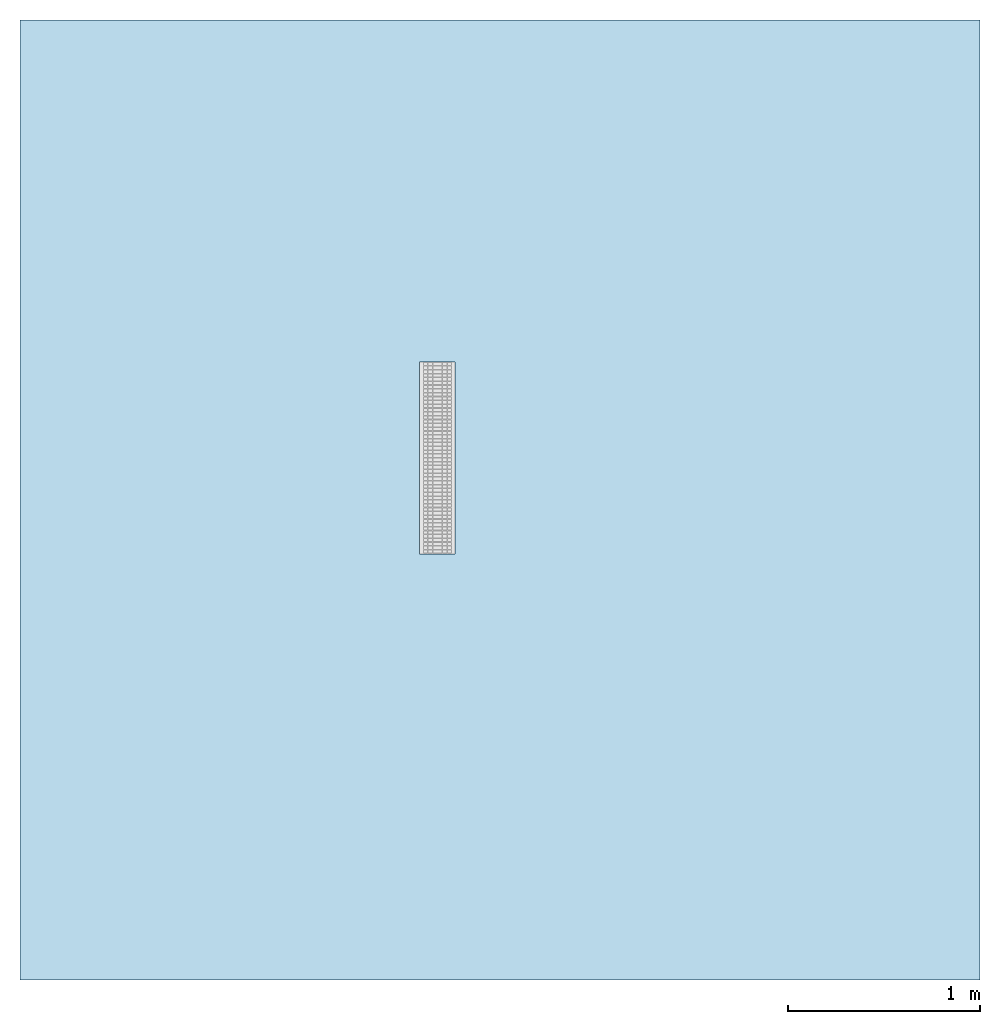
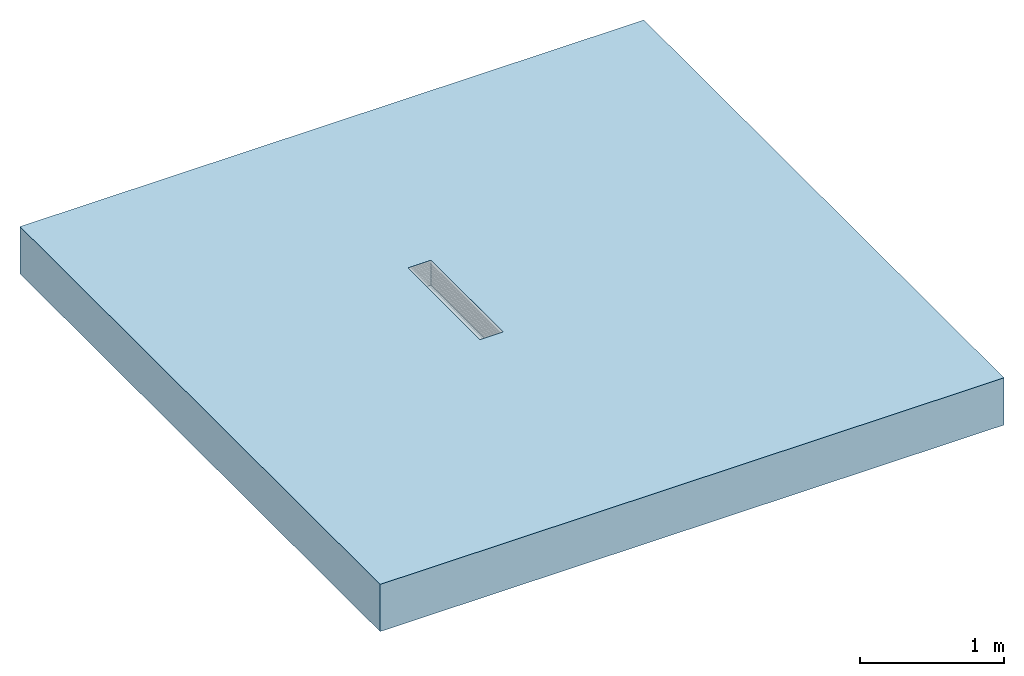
# One storey, incomplete: 1 slab, 1 opening.
"""IFC2X3 building model written with IfcOpenShell, lengths in millimetres."""

from ifc_helpers import new_model, entity, si_unit, converted_unit, direction, frame, frame_2d, origin, origin_2d_with_axis, place, context, subcontext, project, spatial, rectangle, extrude, material, layer, layer_set, layer_usage, element, save


model = new_model("IFC2X3")

# Units and contexts
model_context = context("Model", 3, precision=1e-06, world=origin(), true_north=direction((2.0, 6.12303176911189e-17, 1.0)))
context_of_model = context(None, 3, precision=1e-06, world=origin(), true_north=direction((2.0, 6.12303176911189e-17, 1.0)))
body_context = subcontext(model_context, "Body", "Model", "MODEL_VIEW")
ifc_project = project(units=[si_unit("LENGTHUNIT", "METRE", prefix="MILLI"), si_unit("AREAUNIT", "SQUARE_METRE", prefix="MILLI"), si_unit("VOLUMEUNIT", "CUBIC_METRE", prefix="MILLI"), converted_unit("PLANEANGLEUNIT", "DEGREE", entity("IfcRatioMeasure", 0.0174532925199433), si_unit("PLANEANGLEUNIT", "RADIAN"), dimensions=[0, 0, 0, 0, 0, 0, 0]), si_unit("TIMEUNIT", "SECOND")], contexts=[model_context, context_of_model])

# Site, building, storey
site_placement = place(None, origin())
site = spatial("IfcSite", under=ifc_project, at=site_placement, Name="Default", CompositionType="ELEMENT")
building_placement = place(site_placement, origin())
building = spatial("IfcBuilding", under=site, at=building_placement, CompositionType="ELEMENT")
storey_placement = place(building_placement, origin())
storey = spatial("IfcBuildingStorey", under=building, at=storey_placement, Name="Level 1", CompositionType="ELEMENT", Elevation=0.0)

# Slab, opening
ifc_material = material(Name="Default Roof")
ifc_layer = layer(ifc_material, 400.0)
ifc_layer_set = layer_set([ifc_layer], Name="Floor:Generic Floor - 400mm")
ifc_layer_usage = layer_usage(ifc_layer_set, "AXIS3", "POSITIVE", 0.0)
slab_placement = place(storey_placement, origin())
slab = element("IfcSlab", 1, at=slab_placement, inside=storey, material=ifc_layer_usage, Name="Floor:Generic Floor - 400mm", ObjectType="Floor:Generic Floor - 400mm", PredefinedType="FLOOR", context=body_context, shape_type="SweptSolid", body=[
    extrude(rectangle(XDim=5000.0, YDim=5000.0, at=frame_2d((0.0, 0.0), x_axis=(-1.0, 0.0))), frame((-445.440027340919, -824.330813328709, 0.0), z_axis=(0.0, 0.0, -1.0), x_axis=(-1.0, 0.0, 0.0)), (0.0, 0.0, 1.0), 400.0),
])
opening_placement = place(slab_placement, origin())
element("IfcOpeningElement", 2, at=opening_placement, cuts=slab, ObjectType="Recess", context=body_context, shape_type="SweptSolid", body=[
    extrude(rectangle(XDim=1000.0, YDim=185.000000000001, at=origin_2d_with_axis()), frame((-771.067269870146, -604.358332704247, -210.0), z_axis=(0.0, 0.0, 1.0), x_axis=(0.0, 1.0, 0.0)), (0.0, 0.0, 1.0), 209.999999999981),
])

save(model, "model.ifc")
